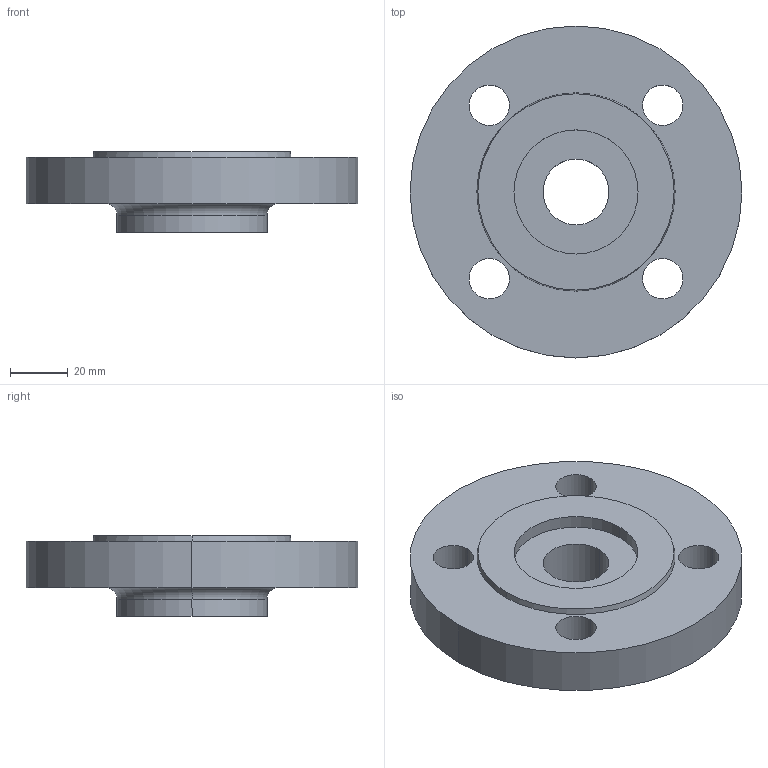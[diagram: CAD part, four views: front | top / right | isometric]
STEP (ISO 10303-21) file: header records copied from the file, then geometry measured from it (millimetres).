
FILE_DESCRIPTION (( 'STEP AP214' ), '1' );
FILE_NAME ('PN40 DN25 Type 13 - Type G Face.STEP', '2018-12-29T20:23:06', ( '' ), ( '' ), 'SwSTEP 2.0', 'SolidWorks 2019', '' );
FILE_SCHEMA (( 'AUTOMOTIVE_DESIGN' ));
Length unit declared in the file: millimetre
Products named in the file (1): PN40 DN25 Type 13 - Type G Face
Bounding box: 115 x 115 x 28 mm (x, y, z)
Volume: 169335.5 mm3; surface area: 31333 mm2
Topology: 1 solids, 1 shells, 25 faces, 58 edges, 38 vertices
Faces by surface type: cylinder 16, plane 5, torus 2, cone 2
Entity records: 790 total; most frequent: DIRECTION 150, CARTESIAN_POINT 122, ORIENTED_EDGE 116, AXIS2_PLACEMENT_3D 66, EDGE_CURVE 58, CIRCLE 40, EDGE_LOOP 38, VERTEX_POINT 38
